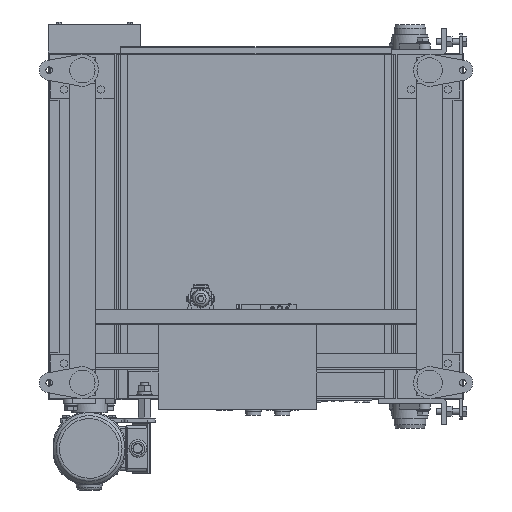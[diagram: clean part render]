
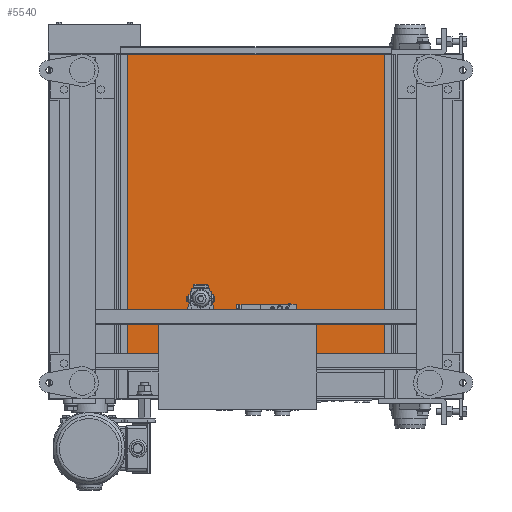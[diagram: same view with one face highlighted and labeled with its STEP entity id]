
A CAD part, front view. The second image highlights one B-rep face of the part: STEP entity #5540.
In plain terms, the highlighted planar face has unit normal (0, -1, 0).
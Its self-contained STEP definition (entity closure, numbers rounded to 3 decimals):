
#5540=ADVANCED_FACE('',(#29481),#29480,.F.);
#29480=PLANE('',#43973);
#29481=FACE_OUTER_BOUND('',#43974,.T.);
#43970=CARTESIAN_POINT('',(127.5,-165.,-271.));
#43971=DIRECTION('',(0.,1.,0.));
#43972=DIRECTION('',(0.,0.,1.));
#43973=AXIS2_PLACEMENT_3D('',#43970,#43971,#43972);
#43974=EDGE_LOOP('',(#56932,#56933,#56934,#56935));
#56932=ORIENTED_EDGE('',*,*,#63669,.F.);
#56933=ORIENTED_EDGE('',*,*,#63675,.F.);
#56934=ORIENTED_EDGE('',*,*,#63676,.F.);
#56935=ORIENTED_EDGE('',*,*,#63677,.F.);
#63669=EDGE_CURVE('',#105286,#105287,#105288,.T.);
#63675=EDGE_CURVE('',#105325,#105286,#105326,.T.);
#63676=EDGE_CURVE('',#105332,#105325,#105333,.T.);
#63677=EDGE_CURVE('',#105287,#105332,#105339,.T.);
#105286=VERTEX_POINT('',#132743);
#105287=VERTEX_POINT('',#132744);
#105288=LINE('',#132745,#132746);
#105325=VERTEX_POINT('',#132764);
#105326=LINE('',#132765,#132766);
#105332=VERTEX_POINT('',#132768);
#105333=LINE('',#132769,#132770);
#105339=LINE('',#132772,#132773);
#132743=CARTESIAN_POINT('',(137.5,-165.,-261.));
#132744=CARTESIAN_POINT('',(137.5,-165.,328.2));
#132745=CARTESIAN_POINT('',(137.5,-165.,-261.));
#132746=VECTOR('',#132747,589.2);
#132747=DIRECTION('',(0.,0.,1.));
#132764=CARTESIAN_POINT('',(652.5,-165.,-261.));
#132765=CARTESIAN_POINT('',(652.5,-165.,-261.));
#132766=VECTOR('',#132767,515.);
#132767=DIRECTION('',(-1.,0.,0.));
#132768=CARTESIAN_POINT('',(652.5,-165.,328.2));
#132769=CARTESIAN_POINT('',(652.5,-165.,328.2));
#132770=VECTOR('',#132771,589.2);
#132771=DIRECTION('',(0.,0.,-1.));
#132772=CARTESIAN_POINT('',(137.5,-165.,328.2));
#132773=VECTOR('',#132774,515.);
#132774=DIRECTION('',(1.,0.,0.));
